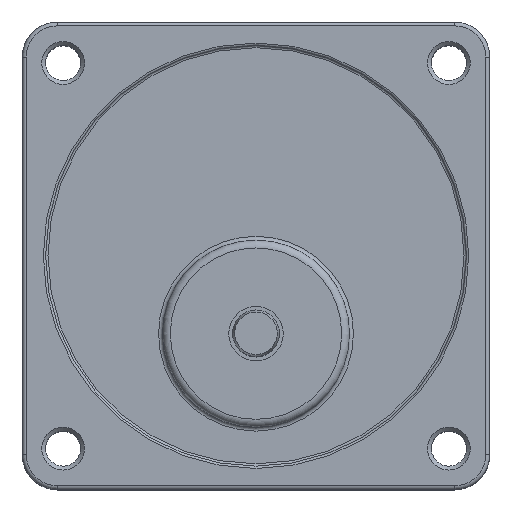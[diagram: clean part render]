
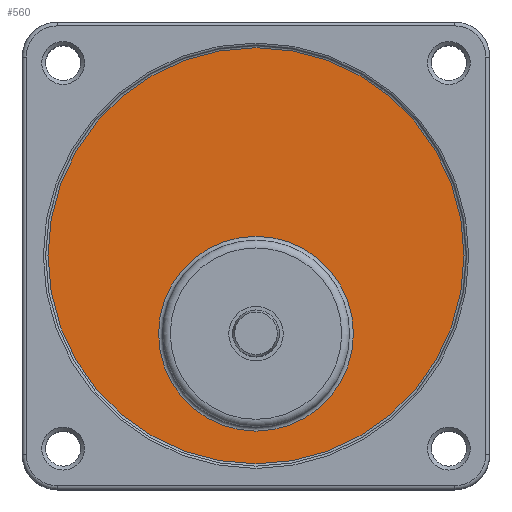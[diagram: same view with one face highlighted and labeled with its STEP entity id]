
A CAD part, top view. The second image highlights one B-rep face of the part: STEP entity #560.
In plain terms, the highlighted planar face has unit normal (0, 0, 1).
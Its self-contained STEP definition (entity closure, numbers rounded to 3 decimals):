
#509=CARTESIAN_POINT('',(42.5,20.0,34.2));
#510=VERTEX_POINT('',#509);
#511=CARTESIAN_POINT('',(30.,20.0,34.2));
#512=DIRECTION('',(0.0,0.0,1.0));
#513=DIRECTION('',(-1.0,0.0,0.0));
#514=AXIS2_PLACEMENT_3D('',#511,#512,#513);
#515=CIRCLE('',#514,12.5);
#516=EDGE_CURVE('',#510,#510,#515,.T.);
#541=CARTESIAN_POINT('',(30.,30.0,34.2));
#542=DIRECTION('',(0.0,0.0,-1.0));
#543=DIRECTION('',(-1.0,0.0,0.0));
#544=AXIS2_PLACEMENT_3D('',#541,#542,#543);
#545=PLANE('',#544);
#546=CARTESIAN_POINT('',(56.699,30.0,34.2));
#547=VERTEX_POINT('',#546);
#548=CARTESIAN_POINT('',(30.,30.0,34.2));
#549=DIRECTION('',(0.0,0.0,-1.0));
#550=DIRECTION('',(-1.0,0.0,0.0));
#551=AXIS2_PLACEMENT_3D('',#548,#549,#550);
#552=CIRCLE('',#551,26.699);
#553=EDGE_CURVE('',#547,#547,#552,.T.);
#554=ORIENTED_EDGE('',*,*,#553,.F.);
#555=EDGE_LOOP('',(#554));
#556=FACE_OUTER_BOUND('',#555,.T.);
#557=ORIENTED_EDGE('',*,*,#516,.F.);
#558=EDGE_LOOP('',(#557));
#559=FACE_BOUND('',#558,.T.);
#560=ADVANCED_FACE('',(#556,#559),#545,.F.);
